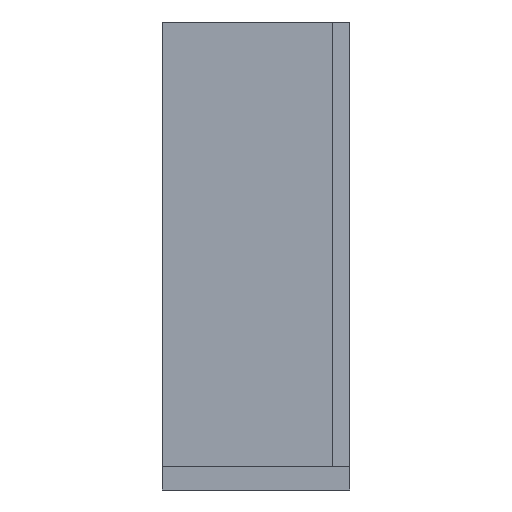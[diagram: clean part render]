
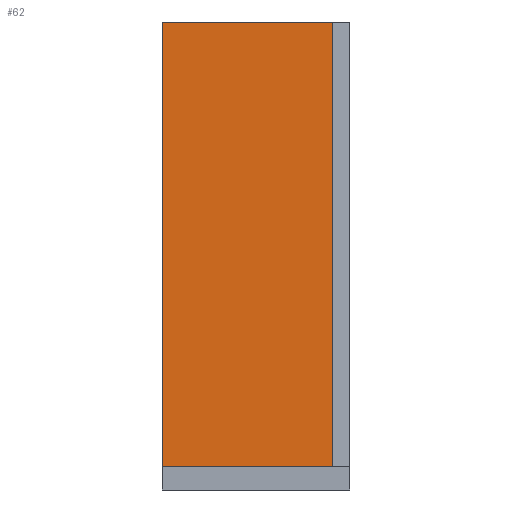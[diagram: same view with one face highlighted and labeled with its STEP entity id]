
A CAD part, front view. The second image highlights one B-rep face of the part: STEP entity #62.
In plain terms, the highlighted planar face has unit normal (0, -1, 0).
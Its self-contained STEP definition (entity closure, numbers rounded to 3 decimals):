
#27 = EDGE_CURVE ( 'NONE', #705, #477, #736, .T. ) ;
#57 = DIRECTION ( 'NONE',  ( 0., 0., -1. ) ) ;
#62 = ADVANCED_FACE ( 'NONE', ( #610 ), #440, .T. ) ;
#99 = EDGE_LOOP ( 'NONE', ( #131, #119, #219, #405 ) ) ;
#106 = CARTESIAN_POINT ( 'NONE',  ( 8.358, 1., 0.448 ) ) ;
#119 = ORIENTED_EDGE ( 'NONE', *, *, #324, .F. ) ;
#131 = ORIENTED_EDGE ( 'NONE', *, *, #27, .T. ) ;
#155 = CARTESIAN_POINT ( 'NONE',  ( 3.9, 1., 0.3 ) ) ;
#181 = DIRECTION ( 'NONE',  ( -1., 0., 0. ) ) ;
#193 = EDGE_CURVE ( 'NONE', #705, #648, #403, .T. ) ;
#194 = CARTESIAN_POINT ( 'NONE',  ( 3.9, 1., 0.3 ) ) ;
#206 = DIRECTION ( 'NONE',  ( 0., -1., 0. ) ) ;
#219 = ORIENTED_EDGE ( 'NONE', *, *, #258, .F. ) ;
#225 = CARTESIAN_POINT ( 'NONE',  ( 3.9, 1., -22.4 ) ) ;
#258 = EDGE_CURVE ( 'NONE', #648, #760, #522, .T. ) ;
#302 = CARTESIAN_POINT ( 'NONE',  ( -4.8, 1., -22.4 ) ) ;
#324 = EDGE_CURVE ( 'NONE', #760, #477, #518, .T. ) ;
#332 = DIRECTION ( 'NONE',  ( 1., 0., 0. ) ) ;
#403 = LINE ( 'NONE', #194, #931 ) ;
#405 = ORIENTED_EDGE ( 'NONE', *, *, #193, .F. ) ;
#407 = DIRECTION ( 'NONE',  ( -1., 0., 0. ) ) ;
#432 = CARTESIAN_POINT ( 'NONE',  ( -4.8, 1., -11.7 ) ) ;
#440 = PLANE ( 'NONE',  #932 ) ;
#477 = VERTEX_POINT ( 'NONE', #302 ) ;
#505 = CARTESIAN_POINT ( 'NONE',  ( 1.65, 1., -22.4 ) ) ;
#518 = LINE ( 'NONE', #505, #905 ) ;
#522 = LINE ( 'NONE', #535, #906 ) ;
#535 = CARTESIAN_POINT ( 'NONE',  ( 3.9, 1., -11.2 ) ) ;
#610 = FACE_OUTER_BOUND ( 'NONE', #99, .T. ) ;
#648 = VERTEX_POINT ( 'NONE', #155 ) ;
#672 = DIRECTION ( 'NONE',  ( 0., 0., -1. ) ) ;
#705 = VERTEX_POINT ( 'NONE', #769 ) ;
#736 = LINE ( 'NONE', #432, #942 ) ;
#760 = VERTEX_POINT ( 'NONE', #225 ) ;
#769 = CARTESIAN_POINT ( 'NONE',  ( -4.8, 1., 0.3 ) ) ;
#905 = VECTOR ( 'NONE', #407, 1000. ) ;
#906 = VECTOR ( 'NONE', #57, 1000. ) ;
#931 = VECTOR ( 'NONE', #332, 1000. ) ;
#932 = AXIS2_PLACEMENT_3D ( 'NONE', #106, #206, #181 ) ;
#942 = VECTOR ( 'NONE', #672, 1000. ) ;
